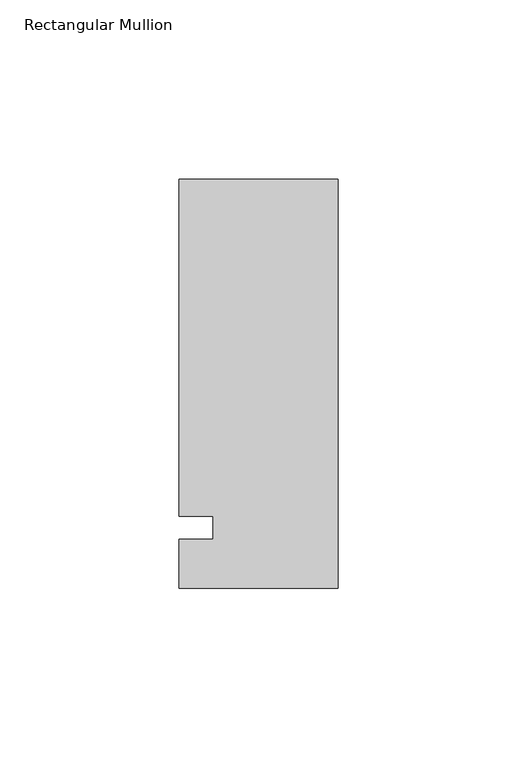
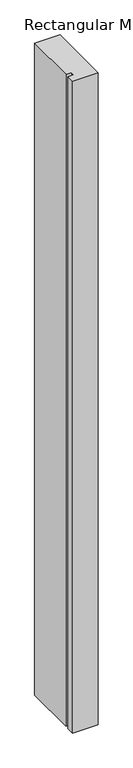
"""IFC4 building model written with IfcOpenShell, lengths in millimetres: member geometry, Rectangular Mullion : Kawneer-TRIFAB_VG_450_BACK_SB_Sill."""

from ifc_helpers import new_model, si_unit, frame, origin, place, context, project, spatial, polyline, outline, extrude, source, transform, mapped, element, save


def rectangular_mullion_4e3339b7(model_context):
    return source(origin(), model_context, "Body", "SweptSolid", [
        extrude(outline(polyline([(-44.45, -16.8840492), (-44.45, -3.175), (-34.925, -3.175), (-34.925, 3.175), (-44.45, 3.175), (-44.45, 97.4159508), (0.0, 97.4159508), (0.0, -16.8840492), (-44.45, -16.8840492)])), frame((0.0, 0.0, -1199.5940926), z_axis=(0.0, 0.0, 1.0), x_axis=(1.0, 0.0, 0.0)), (0.0, 0.0, 1.0), 1199.5940926),
    ])


if __name__ == "__main__":
    model = new_model("IFC4")
    model_context = context("Model", 3, world=origin())
    ifc_project = project(units=[si_unit("LENGTHUNIT", "METRE", prefix="MILLI")], contexts=[model_context])
    site = spatial("IfcSite", under=ifc_project)
    building = spatial("IfcBuilding", under=site)
    placement = place(None, origin())
    rectangular_mullion_shape = rectangular_mullion_4e3339b7(model_context)
    element("IfcMember", 1, ObjectType="Rectangular Mullion : Kawneer-TRIFAB_VG_450_BACK_SB_Sill", at=placement, inside=building, context=model_context, shape_type="MappedRepresentation", body=[
        mapped(rectangular_mullion_shape, transform((0.0, 0.0, 0.0), x_axis=(1.0, 0.0, 0.0), y_axis=(0.0, 1.0, 0.0), z_axis=(0.0, 0.0, 1.0))),
    ])
    save(model, "model.ifc")
